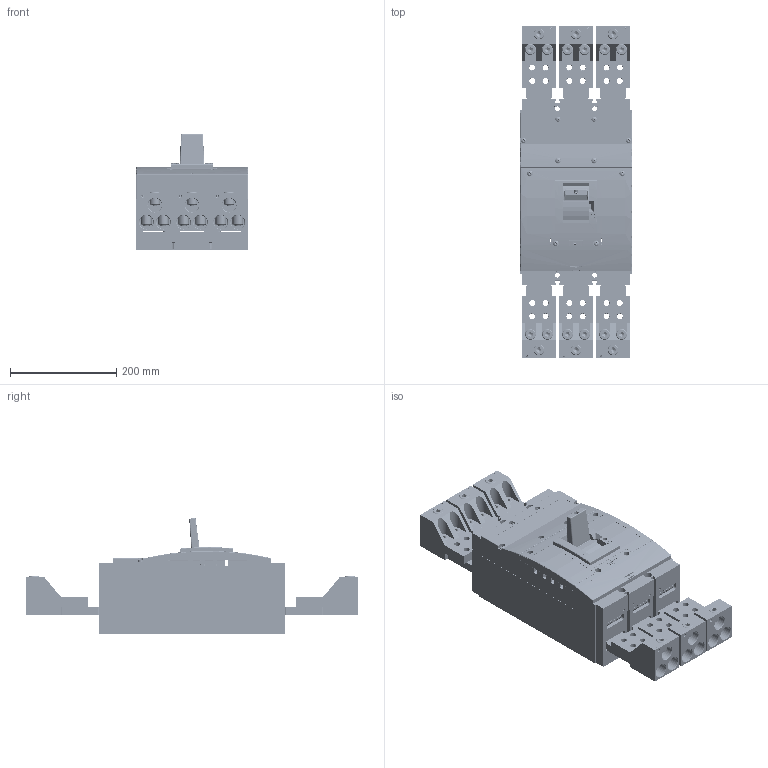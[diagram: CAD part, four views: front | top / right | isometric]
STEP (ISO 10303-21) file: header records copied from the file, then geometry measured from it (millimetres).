
FILE_DESCRIPTION (( 'STEP AP214' ), '1' );
FILE_NAME ('BL____SE305__SE-BL__CS-BL-B003.step', '2011-09-08T11:14:00', ( 'Radek Veselý' ), ( 'Siemens and Partners' ), 'SwSTEP 2.0', 'SolidWorks 2006303', '' );
FILE_SCHEMA (( 'AUTOMOTIVE_DESIGN' ));
Length unit declared in the file: millimetre
Products named in the file (1): BL____SE305__SE-BL__CS-BL-B003
Bounding box: 210 x 626 x 218.52 mm (x, y, z)
Volume: 5094453.7 mm3; surface area: 1765975.1 mm2
Topology: 75 solids, 75 shells, 7575 faces, 20226 edges, 12857 vertices
Faces by surface type: plane 3909, cylinder 2489, cone 714, sphere 194, torus 139, bspline 130
Entity records: 334041 total; most frequent: CARTESIAN_POINT 58738, ORIENTED_EDGE 40074, DIRECTION 39888, EDGE_CURVE 20037, AXIS2_PLACEMENT_3D 13690, VERTEX_POINT 12847, VECTOR 12508, LINE 12508
